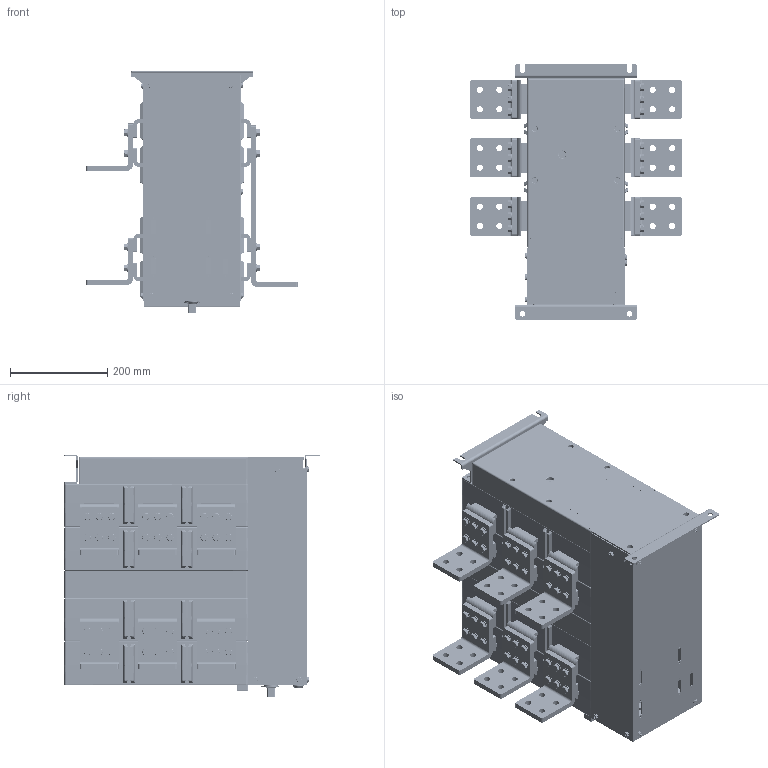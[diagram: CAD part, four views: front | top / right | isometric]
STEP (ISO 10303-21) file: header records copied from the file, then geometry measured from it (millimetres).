
FILE_DESCRIPTION((''),'2;1');
FILE_NAME('NH40-2000_3P_ASM','2020-11-02T',('shift'),(''),'CREO PARAMETRIC BY PTC INC, 2014500','CREO PARAMETRIC BY PTC INC, 2014500','');
FILE_SCHEMA(('AUTOMOTIVE_DESIGN { 1 0 10303 214 1 1 1 1 }'));
Products named in the file (24): 3P____-52496_4_1; 3P____-51977_2_1; 3P____-51963_2_1; 3P_________2_1; 3P_____2000__2_1; 3P____-52041_1_1; NH40-2000__3P____2019_5_25____2_ASM; ANZHUANGJIAO_1_1_1_1_1_1_1; SHANGBAN_2_1_1_1_1_1_1; HENGLIANG_1_1_1_1_1_1_1; CEBAN_3_1_1_1_1_1_1; CEBAN2_2_1_1_1_1_1_1; DIJIAO_1_1_1_1_1_1_4_1; TONGJIANANZHUANG_1_2_1_1_1_2_1; 1_2_1; 2_2_1; 18_1_1_2_1; CEBANLUOSI_1_1_1_1_1_1_1; TONGJIANGUDNGLUOSI_1_1_1_1_1_1_; YAOSHI_1_1_1_1_1_1_1; HONGZHISHI_1_1_1_1_1_1_2_1_1; NH40-2000_3P_2019_5_25__ASM_4_1_ASM; NH40-2000_3P_ASM_1_ASM; NH40-2000_3P_ASM
Assembly tree (137 placements, depth 5):
  NH40-2000_3P_ASM
    NH40-2000_3P_ASM_1_ASM
      NH40-2000_3P_2019_5_25__ASM_4_1_ASM
        NH40-2000__3P____2019_5_25____2_ASM
          3P____-52496_4_1  x4
          3P____-51977_2_1  x2
          3P____-51963_2_1
          3P_________2_1
          3P_____2000__2_1  x2
          3P____-52041_1_1
        ANZHUANGJIAO_1_1_1_1_1_1_1
        SHANGBAN_2_1_1_1_1_1_1
        HENGLIANG_1_1_1_1_1_1_1
        CEBAN_3_1_1_1_1_1_1
        CEBAN2_2_1_1_1_1_1_1
        DIJIAO_1_1_1_1_1_1_4_1
        TONGJIANANZHUANG_1_2_1_1_1_2_1  x24
        1_2_1  x3
        2_2_1  x3
        18_1_1_2_1  x3
        CEBANLUOSI_1_1_1_1_1_1_1  x10
        TONGJIANGUDNGLUOSI_1_1_1_1_1_1_  x72
        YAOSHI_1_1_1_1_1_1_1
        HONGZHISHI_1_1_1_1_1_1_2_1_1
Bounding box: 435 x 525.06 x 499.3 mm (x, y, z)
Volume: 38093693.3 mm3; surface area: 3958420.7 mm2
Topology: 134 solids, 150 shells, 8760 faces, 22040 edges, 14249 vertices
Faces by surface type: plane 4353, cylinder 3284, bspline 352, torus 307, extrusion 216, cone 166, sphere 82
Entity records: 97194 total; most frequent: CARTESIAN_POINT 27577, ORIENTED_EDGE 13368, DIRECTION 13179, EDGE_CURVE 6684, AXIS2_PLACEMENT_3D 4475, VERTEX_POINT 4304, VECTOR 4229, LINE 4157
